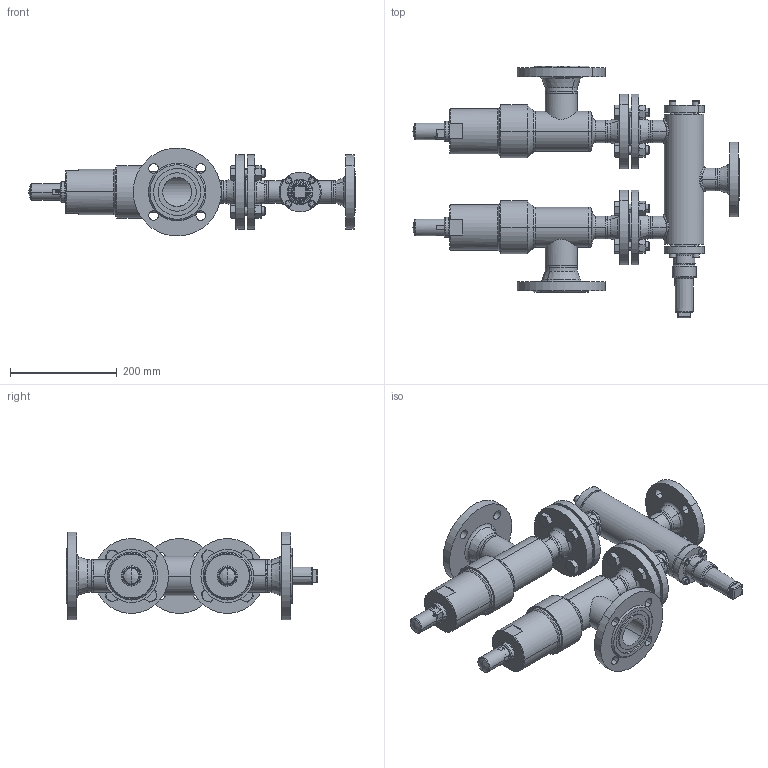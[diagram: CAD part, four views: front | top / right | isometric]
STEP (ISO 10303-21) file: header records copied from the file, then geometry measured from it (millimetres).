
FILE_DESCRIPTION (( 'STEP AP214' ), '1' );
FILE_NAME ('WVB-SVAA_1A5FL_DN32_DIN-FL.STEP', '2010-09-09T08:24:27', ( 'Eckhard Grams' ), ( 'AWP Kälte Klima Armaturen GmbH' ), 'SwSTEP 2.0', 'SolidWorks 2002296', '' );
FILE_SCHEMA (( 'AUTOMOTIVE_DESIGN' ));
Length unit declared in the file: millimetre
Products named in the file (30): WVB-SVAA_1A5FL_DN32_DIN-FL; WVB23020D13-DN032_DIN-FL-N-F_PS40_Standard; Geh,kpl24020E13-DN32_DIN-FL-N-F_PS40_Standard; Geh,kpl24000E13_DN32_R1_PS40_Standard; Gehäuse24000E13-DN32_R1_PS40_Standard; Rohrstutzen-24000E13-DN32_R1_Standard; Schw-24000E13-DN32_Standard; Flansch-DIN2635-Feder_PS40_DIN-Flansch-DN032_PS40-Feder; beadC4020-13-3_Standard; beadC4020-13-2_Standard; beadC4020-13-1_Standard; AVB16300E13_Deck+Schr-DN25-32_Standard; Deckel16300E13-DN25-32_Standard; Kappe 16402-13_DN10-32 (M36x2)_Standard; WVB-R23000E13_Deck+Schr-DN25-32_Standard; Deckel23000E13-DN25-32_Standard; Zylinderschraube-DIN912_M 8x  25; SVAA 45620D13-DN32(50)_DIN; Gehkpl 45720E13-5030001; Flansch-DIN2635-Nut_PS40_DIN-Flansch-DN050_PS40-Nut; Rohrstutzen-A 45700E13-5036004_DN32(50)_Standard; Flansch-DIN2635-Nut_PS40_DIN-Flansch-DN032_PS40-Nut; Geh 45700E13-5034004_DN32; bead Geh,kpl 45720E13-2_Standard; bead Geh,kpl 45720E13-1_Standard; Flachdichtg-Alu-DN32; Haube 45700E13-5260003_DN32; Kappe SVA-SVU-ORV_DN10-40 (M27x1,5)_Standard; Sechskantschraube-DIN933_M16x 55; Sechskantmutter-DIN934_M16
Assembly tree (57 placements, depth 5):
  WVB-SVAA_1A5FL_DN32_DIN-FL
    Sechskantmutter-DIN934_M16  x8
    Sechskantschraube-DIN933_M16x 55  x8
    SVAA 45620D13-DN32(50)_DIN  x2
      Gehkpl 45720E13-5030001
        Flansch-DIN2635-Nut_PS40_DIN-Flansch-DN032_PS40-Nut
        bead Geh,kpl 45720E13-2_Standard
        bead Geh,kpl 45720E13-1_Standard
        Flansch-DIN2635-Nut_PS40_DIN-Flansch-DN050_PS40-Nut
        Rohrstutzen-A 45700E13-5036004_DN32(50)_Standard
        Geh 45700E13-5034004_DN32
      Flachdichtg-Alu-DN32
      Haube 45700E13-5260003_DN32
      Kappe SVA-SVU-ORV_DN10-40 (M27x1,5)_Standard
    WVB23020D13-DN032_DIN-FL-N-F_PS40_Standard
      AVB16300E13_Deck+Schr-DN25-32_Standard
        Zylinderschraube-DIN912_M 8x  25  x4
        Deckel16300E13-DN25-32_Standard
      WVB-R23000E13_Deck+Schr-DN25-32_Standard
        Zylinderschraube-DIN912_M 8x  25  x4
        Deckel23000E13-DN25-32_Standard
      Kappe 16402-13_DN10-32 (M36x2)_Standard
      Geh,kpl24020E13-DN32_DIN-FL-N-F_PS40_Standard
        Flansch-DIN2635-Feder_PS40_DIN-Flansch-DN032_PS40-Feder  x2
        Flansch-DIN2635-Nut_PS40_DIN-Flansch-DN032_PS40-Nut
        beadC4020-13-1_Standard
        beadC4020-13-3_Standard
        Geh,kpl24000E13_DN32_R1_PS40_Standard
          Rohrstutzen-24000E13-DN32_R1_Standard  x3
          Schw-24000E13-DN32_Standard  x3
          Gehäuse24000E13-DN32_R1_PS40_Standard
        beadC4020-13-2_Standard
Bounding box: 611.5 x 471.5 x 164.37 mm (x, y, z)
Volume: 4322188.8 mm3; surface area: 1016647.6 mm2
Topology: 58 solids, 58 shells, 1421 faces, 3253 edges, 1999 vertices
Faces by surface type: cylinder 504, plane 381, cone 379, torus 95, bspline 54, sphere 8
Entity records: 43208 total; most frequent: CARTESIAN_POINT 27104, DIRECTION 2967, ORIENTED_EDGE 2794, EDGE_CURVE 1397, AXIS2_PLACEMENT_3D 1265, VERTEX_POINT 870, EDGE_LOOP 703, CIRCLE 640
